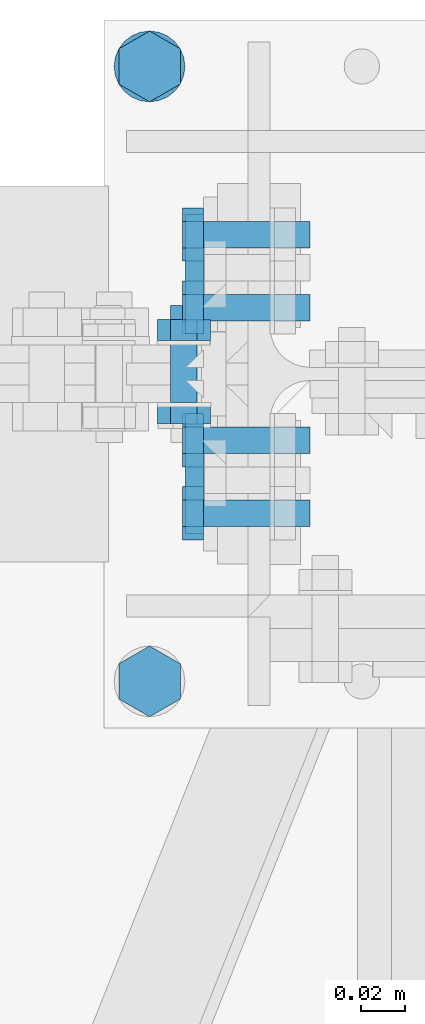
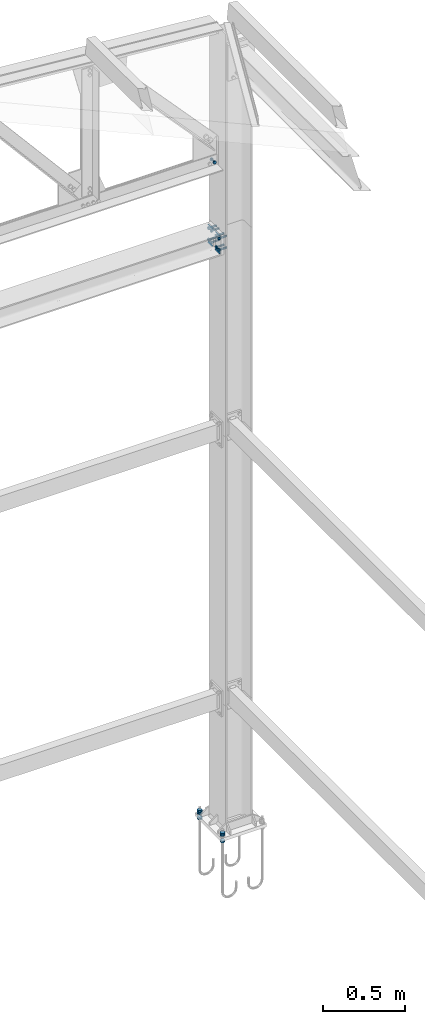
# One storey, part 223 of 251: 27 mechanical fasteners, 8 fasteners.
"""IFC4 building model written with IfcOpenShell, lengths in metres."""

import ifcopenshell
import ifcopenshell.guid

model = None  # the IFC model being written
_history = None  # IfcOwnerHistory: only IFC2X3 demands one
_inside = {}  # id of a spatial element -> (the spatial element, [elements in it])
_under = {}  # id of a project, library or spatial element -> (it, [spatial elements below it])
_declared = {}  # id of a project -> (the project, [libraries it declares])
_typed = {}  # id of a type object -> (the type object, [elements of that type])
_made_of = {}  # id of a material, layer set ... -> (it, [elements and type objects made of it])


def new_model(schema):
    """Start an empty IFC model of exactly this schema.

    Asked for "IFC4X3", IfcOpenShell would pick the latest addendum, in which some entities
    have other attributes; the version numbers below select the first issue.
    IFC2X3 requires an IfcOwnerHistory on every rooted entity: one is made here for all.
    """
    global model, _history
    if schema == "IFC4X3":
        model = ifcopenshell.file(schema_version=(4, 3, 0, 0))
    else:
        model = ifcopenshell.file(schema=schema)
    _inside.clear()
    _under.clear()
    _declared.clear()
    _typed.clear()
    _made_of.clear()
    _history = None
    if model.schema == "IFC2X3":
        org = make("IfcOrganization", Name="unknown")
        user = make(
            "IfcPersonAndOrganization",
            ThePerson=make("IfcPerson", FamilyName="unknown"),
            TheOrganization=org,
        )
        app = make(
            "IfcApplication",
            ApplicationDeveloper=org,
            Version="unknown",
            ApplicationFullName="unknown",
            ApplicationIdentifier="unknown",
        )
        _history = make(
            "IfcOwnerHistory",
            OwningUser=user,
            OwningApplication=app,
            ChangeAction="ADDED",
            CreationDate=0,
        )
    return model


def make(cls, **values):
    """One entity of the class cls with the attributes given. An attribute that is None is left unset."""
    return model.create_entity(
        cls, **{name: value for name, value in values.items() if value is not None}
    )


def rooted(cls, **values):
    """An entity with a GlobalId (a new one), such as an element, a storey or a relation."""
    return make(cls, GlobalId=ifcopenshell.guid.new(), OwnerHistory=_history, **values)


def si_unit(unit_type, name, prefix=None):
    """IfcSIUnit, for example si_unit("LENGTHUNIT", "METRE", prefix="MILLI")."""
    return make("IfcSIUnit", UnitType=unit_type, Prefix=prefix, Name=name)


def assignment(units):
    """IfcUnitAssignment: the units of a project."""
    return None if units is None else make("IfcUnitAssignment", Units=units)


def point(xyz):
    """IfcCartesianPoint."""
    return None if xyz is None else make("IfcCartesianPoint", Coordinates=xyz)


def direction(xyz):
    """IfcDirection."""
    return None if xyz is None else make("IfcDirection", DirectionRatios=xyz)


def frame(location, z_axis=None, x_axis=None):
    """IfcAxis2Placement3D, a coordinate frame: its origin and axes. An axis left out is left unset."""
    return make(
        "IfcAxis2Placement3D",
        Location=point(location),
        Axis=direction(z_axis),
        RefDirection=direction(x_axis),
    )


def origin_with_axes():
    """The frame at (0, 0, 0) with the z axis (0, 0, 1) and the x axis (1, 0, 0) written out."""
    return frame((0.0, 0.0, 0.0), z_axis=(0.0, 0.0, 1.0), x_axis=(1.0, 0.0, 0.0))


def place(relative_to, where):
    """IfcLocalPlacement: puts the frame where relative to a parent placement (None: the world)."""
    return make(
        "IfcLocalPlacement", PlacementRelTo=relative_to, RelativePlacement=where
    )


def context(
    kind, dimensions, precision=None, world=None, true_north=None, identifier=None
):
    """IfcGeometricRepresentationContext, for example the 3D "Model" context."""
    return make(
        "IfcGeometricRepresentationContext",
        ContextIdentifier=identifier,
        ContextType=kind,
        CoordinateSpaceDimension=dimensions,
        Precision=precision,
        WorldCoordinateSystem=world,
        TrueNorth=true_north,
    )


def project(units=None, contexts=None):
    """IfcProject with its units and contexts."""
    return rooted(
        "IfcProject",
        Name="project",
        RepresentationContexts=contexts,
        UnitsInContext=assignment(units),
    )


def spatial(cls, under=None, at=None, **own):
    """A site, building, storey or space (cls), placed at a placement, below another one or the project."""
    s = rooted(cls, ObjectPlacement=at, **own)
    if under is not None:
        _under.setdefault(under.id(), (under, []))[1].append(s)
    return s


def polyline(points):
    """IfcPolyline through the points."""
    return make("IfcPolyline", Points=[point(p) for p in points])


def outline(outer, holes=None, kind="AREA"):
    """IfcArbitraryClosedProfileDef: a profile drawn as a closed curve; with holes, ...WithVoids."""
    if holes is None:
        return make("IfcArbitraryClosedProfileDef", ProfileType=kind, OuterCurve=outer)
    return make(
        "IfcArbitraryProfileDefWithVoids",
        ProfileType=kind,
        OuterCurve=outer,
        InnerCurves=holes,
    )


def extrude(swept, where, along, depth):
    """IfcExtrudedAreaSolid: the profile swept, set in the frame where, extruded along a direction by depth."""
    return make(
        "IfcExtrudedAreaSolid",
        SweptArea=swept,
        Position=where,
        ExtrudedDirection=direction(along),
        Depth=depth,
    )


def shape(context_of_items, identifier, shape_type, items):
    """IfcShapeRepresentation: the items that make up one representation, for example the "Body"."""
    return make(
        "IfcShapeRepresentation",
        ContextOfItems=context_of_items,
        RepresentationIdentifier=identifier,
        RepresentationType=shape_type,
        Items=items,
    )


def made_of(thing, what):
    """Note that an element or type object is made of a material, layer set ...; save() writes the relation."""
    if what is not None:
        _made_of.setdefault(what.id(), (what, []))[1].append(thing)
    return thing


def type_object(cls, material=None, **own):
    """A type object (cls), such as IfcWallType, which elements share."""
    return made_of(rooted(cls, **own), material)


def element(
    cls,
    number,
    at=None,
    inside=None,
    cuts=None,
    type_object=None,
    material=None,
    context=None,
    identifier="Body",
    shape_type=None,
    held_by="IfcProductDefinitionShape",
    body=None,
    shapes=None,
    **own,
):
    """One element of the class cls, such as IfcWall. Its Tag is "e" and its number.

    at: its placement. inside: the storey or other place that contains it. cuts: it is an
    opening in that element (IfcRelVoidsElement). A single representation is given by context,
    identifier, shape_type and body (its items); several are given by shapes. held_by: the class
    of the entity that holds the representations. save() writes the other relations.
    """
    e = rooted(cls, Tag="e%d" % number, ObjectPlacement=at, **own)
    if body is not None:
        shapes = [shape(context, identifier, shape_type, body)]
    if shapes is not None:
        e.Representation = make(held_by, Representations=shapes)
    if inside is not None:
        _inside.setdefault(inside.id(), (inside, []))[1].append(e)
    if cuts is not None:
        rooted(
            "IfcRelVoidsElement", RelatingBuildingElement=cuts, RelatedOpeningElement=e
        )
    if type_object is not None:
        _typed.setdefault(type_object.id(), (type_object, []))[1].append(e)
    return made_of(e, material)


def aggregate(whole, parts):
    """IfcRelAggregates: a whole, such as a stair, and the parts it consists of."""
    return rooted("IfcRelAggregates", RelatingObject=whole, RelatedObjects=parts)


def save(model, path):
    """Write the relations noted so far, then the file.

    IfcRelAggregates (storeys below a building ...), IfcRelContainedInSpatialStructure (elements
    in a storey), IfcRelDefinesByType, IfcRelAssociatesMaterial and IfcRelDeclares: one each for
    every whole, place, type object, material and project.
    """
    for whole, parts in _under.values():
        aggregate(whole, parts)
    for where, things in _inside.values():
        rooted(
            "IfcRelContainedInSpatialStructure",
            RelatedElements=things,
            RelatingStructure=where,
        )
    for kind, things in _typed.values():
        rooted("IfcRelDefinesByType", RelatedObjects=things, RelatingType=kind)
    for what, things in _made_of.values():
        rooted("IfcRelAssociatesMaterial", RelatedObjects=things, RelatingMaterial=what)
    for by, libraries in _declared.values():
        rooted("IfcRelDeclares", RelatingContext=by, RelatedDefinitions=libraries)
    model.write(path)


model = new_model("IFC4")

# Units and contexts
model_context = context("Model", 3, precision=1e-05, world=origin_with_axes())
ifc_project = project(units=[si_unit("LENGTHUNIT", "METRE"), si_unit("AREAUNIT", "SQUARE_METRE"), si_unit("VOLUMEUNIT", "CUBIC_METRE"), si_unit("MASSUNIT", "GRAM", prefix="KILO"), si_unit("TIMEUNIT", "SECOND"), si_unit("PLANEANGLEUNIT", "RADIAN"), si_unit("SOLIDANGLEUNIT", "STERADIAN"), si_unit("THERMODYNAMICTEMPERATUREUNIT", "DEGREE_CELSIUS")], contexts=[model_context])

# Site, building, storey
placement_1 = place(None, origin_with_axes())
site = spatial("IfcSite", under=ifc_project, at=placement_1, Name="Italia", CompositionType="ELEMENT")
building = spatial("IfcBuilding", under=site, at=placement_1, Name="Deposito", CompositionType="ELEMENT")
storey = spatial("IfcBuildingStorey", under=building, at=placement_1, Name="Storey 0", CompositionType="ELEMENT", Elevation=0.0)

# Fasteners
fastener_type_1 = type_object("IfcFastenerType", Name="Collegamenti -051_7075 -053_7076", PredefinedType="WELD")
placement_2 = place(placement_1, origin_with_axes())
fastener_1_placement = place(placement_2, origin_with_axes())
element("IfcFastener", 1, at=fastener_1_placement, inside=storey, type_object=fastener_type_1, Name="Collegamenti -051_7075 -053_7076", context=model_context, shape_type="SweptSolid", body=[
    extrude(outline(polyline([(0.0, 0.0), (-0.00817299, 0.00792837), (0.0, 0.00792837), (0.0, 0.0)])), frame((19.885, 19.982, 4.48312), z_axis=(0.0, -1.0, 0.0), x_axis=(1.0, 0.0, 0.0)), (0.0, 0.0, 1.0), 0.0541),
])
fastener_type_2 = type_object("IfcFastenerType", Name="Collegamenti -051_7075 -053_7076", PredefinedType="WELD")
fastener_2_placement = place(placement_2, origin_with_axes())
element("IfcFastener", 2, at=fastener_2_placement, inside=storey, type_object=fastener_type_2, Name="Collegamenti -051_7075 -053_7076", context=model_context, shape_type="SweptSolid", body=[
    extrude(outline(polyline([(0.0, 0.0), (0.00817299, -0.00792837), (0.0, -0.00792837), (0.0, 0.0)])), frame((19.885, 19.9279, 4.36488), z_axis=(0.0, 1.0, 0.0), x_axis=(-1.0, 0.0, 0.0)), (0.0, 0.0, 1.0), 0.0541),
])
fastener_type_3 = type_object("IfcFastenerType", Name="Collegamenti -051_7075 -053_7076", PredefinedType="WELD")
fastener_3_placement = place(placement_2, origin_with_axes())
element("IfcFastener", 3, at=fastener_3_placement, inside=storey, type_object=fastener_type_3, Name="Collegamenti -051_7075 -053_7076", context=model_context, shape_type="SweptSolid", body=[
    extrude(outline(polyline([(0.0, 0.0), (0.00817299, -0.00792837), (0.0, -0.00792837), (0.0, 0.0)])), frame((19.885, 20.018, 4.36488), z_axis=(0.0, 1.0, 0.0), x_axis=(-1.0, 0.0, 0.0)), (0.0, 0.0, 1.0), 0.0541),
])
fastener_type_4 = type_object("IfcFastenerType", Name="Collegamenti -051_7075 -053_7076", PredefinedType="WELD")
fastener_4_placement = place(placement_2, origin_with_axes())
element("IfcFastener", 4, at=fastener_4_placement, inside=storey, type_object=fastener_type_4, Name="Collegamenti -051_7075 -053_7076", context=model_context, shape_type="SweptSolid", body=[
    extrude(outline(polyline([(0.0, 0.0), (-0.00817299, 0.00792837), (0.0, 0.00792837), (0.0, 0.0)])), frame((19.885, 20.0721, 4.48312), z_axis=(0.0, -1.0, 0.0), x_axis=(1.0, 0.0, 0.0)), (0.0, 0.0, 1.0), 0.0541),
])
fastener_type_5 = type_object("IfcFastenerType", Name="Collegamenti -051_7075 -053_7076", PredefinedType="WELD")
fastener_5_placement = place(placement_2, origin_with_axes())
element("IfcFastener", 5, at=fastener_5_placement, inside=storey, type_object=fastener_type_5, Name="Collegamenti -051_7075 -053_7076", context=model_context, shape_type="SweptSolid", body=[
    extrude(outline(polyline([(0.0, 0.0), (-0.00817299, 0.00792837), (0.0, 0.00792837), (0.0, 0.0)])), frame((19.885, 19.982, 4.48312), z_axis=(0.0, -1.0, 0.0), x_axis=(1.0, 0.0, 0.0)), (0.0, 0.0, 1.0), 0.0541),
])
fastener_type_6 = type_object("IfcFastenerType", Name="Collegamenti -051_7075 -053_7076", PredefinedType="WELD")
fastener_6_placement = place(placement_2, origin_with_axes())
element("IfcFastener", 6, at=fastener_6_placement, inside=storey, type_object=fastener_type_6, Name="Collegamenti -051_7075 -053_7076", context=model_context, shape_type="SweptSolid", body=[
    extrude(outline(polyline([(0.0, 0.0), (0.00817299, -0.00792837), (0.0, -0.00792837), (0.0, 0.0)])), frame((19.885, 19.9279, 4.36488), z_axis=(0.0, 1.0, 0.0), x_axis=(-1.0, 0.0, 0.0)), (0.0, 0.0, 1.0), 0.0541),
])
fastener_type_7 = type_object("IfcFastenerType", Name="Collegamenti -051_7075 -053_7076", PredefinedType="WELD")
fastener_7_placement = place(placement_2, origin_with_axes())
element("IfcFastener", 7, at=fastener_7_placement, inside=storey, type_object=fastener_type_7, Name="Collegamenti -051_7075 -053_7076", context=model_context, shape_type="SweptSolid", body=[
    extrude(outline(polyline([(0.0, 0.0), (0.00817299, -0.00792837), (0.0, -0.00792837), (0.0, 0.0)])), frame((19.885, 20.018, 4.36488), z_axis=(0.0, 1.0, 0.0), x_axis=(-1.0, 0.0, 0.0)), (0.0, 0.0, 1.0), 0.0541),
])
fastener_type_8 = type_object("IfcFastenerType", Name="Collegamenti -051_7075 -053_7076", PredefinedType="WELD")
fastener_8_placement = place(placement_2, origin_with_axes())
element("IfcFastener", 8, at=fastener_8_placement, inside=storey, type_object=fastener_type_8, Name="Collegamenti -051_7075 -053_7076", context=model_context, shape_type="SweptSolid", body=[
    extrude(outline(polyline([(0.0, 0.0), (-0.00817299, 0.00792837), (0.0, 0.00792837), (0.0, 0.0)])), frame((19.885, 20.0721, 4.48312), z_axis=(0.0, -1.0, 0.0), x_axis=(1.0, 0.0, 0.0)), (0.0, 0.0, 1.0), 0.0541),
])

# Mechanical fasteners
mechanical_fastener_type_1 = type_object("IfcMechanicalFastenerType", Name="Collegamenti -051_7075 -053_7076", PredefinedType="BOLT")
mechanical_fastener_1_placement = place(placement_2, origin_with_axes())
element("IfcMechanicalFastener", 9, at=mechanical_fastener_1_placement, inside=storey, type_object=mechanical_fastener_type_1, Name="Collegamenti -051_7075 -053_7076", NominalDiameter=0.0119992, context=model_context, shape_type="SweptSolid", body=[
    extrude(outline(polyline([(0.0, 0.0), (-0.012001, 0.0), (-0.0180016, 0.0103922), (-0.012001, 0.0207849), (0.0, 0.0207849), (0.00599861, 0.0103922), (0.0, 0.0)])), frame((19.885, 20.057, 4.37061), z_axis=(-1.0, 0.0, 0.0), x_axis=(0.0, -1.0, 0.0)), (0.0, 0.0, 1.0), 0.00959969),
])
mechanical_fastener_type_2 = type_object("IfcMechanicalFastenerType", Name="Collegamenti -051_7075 -053_7076", PredefinedType="BOLT")
mechanical_fastener_2_placement = place(placement_2, origin_with_axes())
element("IfcMechanicalFastener", 10, at=mechanical_fastener_2_placement, inside=storey, type_object=mechanical_fastener_type_2, Name="Collegamenti -051_7075 -053_7076", NominalDiameter=0.012, context=model_context, shape_type="SweptSolid", body=[
    extrude(outline(polyline([(0.0, 0.0), (-0.000204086, -0.00155306), (-0.000804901, -0.00299978), (-0.00175858, -0.00424242), (-0.00300026, -0.00519609), (-0.00444794, -0.00579548), (-0.00600052, -0.00600004), (-0.0075531, -0.00579548), (-0.00900078, -0.00519609), (-0.0102425, -0.00424242), (-0.0111961, -0.00299978), (-0.011797, -0.00155306), (-0.012001, 0.0), (-0.011797, 0.00155306), (-0.0111961, 0.00299978), (-0.0102425, 0.00424242), (-0.00900078, 0.00519609), (-0.0075531, 0.00579548), (-0.00600052, 0.00600004), (-0.00444794, 0.00579548), (-0.00300026, 0.00519609), (-0.00175858, 0.00424242), (-0.000804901, 0.00299978), (-0.000204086, 0.00155306), (0.0, 0.0)])), frame((19.933, 20.057, 4.381), z_axis=(-1.0, 0.0, 0.0), x_axis=(0.0, -1.0, 0.0)), (0.0, 0.0, 1.0), 0.0480003),
])
mechanical_fastener_type_3 = type_object("IfcMechanicalFastenerType", Name="Collegamenti -051_7075 -053_7076", PredefinedType="BOLT")
mechanical_fastener_3_placement = place(placement_2, origin_with_axes())
element("IfcMechanicalFastener", 11, at=mechanical_fastener_3_placement, inside=storey, type_object=mechanical_fastener_type_3, Name="Collegamenti -051_7075 -053_7076", NominalDiameter=0.0119991, context=model_context, shape_type="SweptSolid", body=[
    extrude(outline(polyline([(0.0, 0.0), (-0.0119991, 0.0), (-0.0179996, 0.0103922), (-0.0119991, 0.0207849), (0.0, 0.0207849), (0.00600052, 0.0103922), (0.0, 0.0)])), frame((19.885, 20.024, 4.37061), z_axis=(-1.0, 0.0, 0.0), x_axis=(0.0, -1.0, 0.0)), (0.0, 0.0, 1.0), 0.00959969),
])
mechanical_fastener_type_4 = type_object("IfcMechanicalFastenerType", Name="Collegamenti -051_7075 -053_7076", PredefinedType="BOLT")
mechanical_fastener_4_placement = place(placement_2, origin_with_axes())
element("IfcMechanicalFastener", 12, at=mechanical_fastener_4_placement, inside=storey, type_object=mechanical_fastener_type_4, Name="Collegamenti -051_7075 -053_7076", NominalDiameter=0.012, context=model_context, shape_type="SweptSolid", body=[
    extrude(outline(polyline([(0.0, 0.0), (-0.000204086, -0.00155306), (-0.000804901, -0.00299978), (-0.00175858, -0.00424242), (-0.00300026, -0.00519609), (-0.00444794, -0.00579548), (-0.00600052, -0.00600004), (-0.0075531, -0.00579548), (-0.00900078, -0.00519609), (-0.0102425, -0.00424242), (-0.0111961, -0.00299978), (-0.011797, -0.00155306), (-0.012001, 0.0), (-0.011797, 0.00155306), (-0.0111961, 0.00299978), (-0.0102425, 0.00424242), (-0.00900078, 0.00519609), (-0.0075531, 0.00579548), (-0.00600052, 0.00600004), (-0.00444794, 0.00579548), (-0.00300026, 0.00519609), (-0.00175858, 0.00424242), (-0.000804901, 0.00299978), (-0.000204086, 0.00155306), (0.0, 0.0)])), frame((19.933, 20.024, 4.381), z_axis=(-1.0, 0.0, 0.0), x_axis=(0.0, -1.0, 0.0)), (0.0, 0.0, 1.0), 0.0480003),
])
mechanical_fastener_type_5 = type_object("IfcMechanicalFastenerType", Name="Collegamenti -051_7075 -053_7076", PredefinedType="BOLT")
mechanical_fastener_5_placement = place(placement_2, origin_with_axes())
element("IfcMechanicalFastener", 13, at=mechanical_fastener_5_placement, inside=storey, type_object=mechanical_fastener_type_5, Name="Collegamenti -051_7075 -053_7076", NominalDiameter=0.0119991, context=model_context, shape_type="SweptSolid", body=[
    extrude(outline(polyline([(0.0, 0.0), (-0.0119991, 0.0), (-0.0179996, 0.0103922), (-0.0119991, 0.0207849), (0.0, 0.0207849), (0.00600052, 0.0103922), (0.0, 0.0)])), frame((19.885, 19.964, 4.37061), z_axis=(-1.0, 0.0, 0.0), x_axis=(0.0, -1.0, 0.0)), (0.0, 0.0, 1.0), 0.00959969),
])
mechanical_fastener_type_6 = type_object("IfcMechanicalFastenerType", Name="Collegamenti -051_7075 -053_7076", PredefinedType="BOLT")
mechanical_fastener_6_placement = place(placement_2, origin_with_axes())
element("IfcMechanicalFastener", 14, at=mechanical_fastener_6_placement, inside=storey, type_object=mechanical_fastener_type_6, Name="Collegamenti -051_7075 -053_7076", NominalDiameter=0.012, context=model_context, shape_type="SweptSolid", body=[
    extrude(outline(polyline([(0.0, 0.0), (-0.000204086, -0.00155306), (-0.000804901, -0.00299978), (-0.00175858, -0.00424242), (-0.00300026, -0.00519609), (-0.00444794, -0.00579548), (-0.00600052, -0.00600004), (-0.0075531, -0.00579548), (-0.00900078, -0.00519609), (-0.0102425, -0.00424242), (-0.0111961, -0.00299978), (-0.011797, -0.00155306), (-0.012001, 0.0), (-0.011797, 0.00155306), (-0.0111961, 0.00299978), (-0.0102425, 0.00424242), (-0.00900078, 0.00519609), (-0.0075531, 0.00579548), (-0.00600052, 0.00600004), (-0.00444794, 0.00579548), (-0.00300026, 0.00519609), (-0.00175858, 0.00424242), (-0.000804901, 0.00299978), (-0.000204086, 0.00155306), (0.0, 0.0)])), frame((19.933, 19.964, 4.381), z_axis=(-1.0, 0.0, 0.0), x_axis=(0.0, -1.0, 0.0)), (0.0, 0.0, 1.0), 0.0480003),
])
mechanical_fastener_type_7 = type_object("IfcMechanicalFastenerType", Name="Collegamenti -051_7075 -053_7076", PredefinedType="BOLT")
mechanical_fastener_7_placement = place(placement_2, origin_with_axes())
element("IfcMechanicalFastener", 15, at=mechanical_fastener_7_placement, inside=storey, type_object=mechanical_fastener_type_7, Name="Collegamenti -051_7075 -053_7076", NominalDiameter=0.0119992, context=model_context, shape_type="SweptSolid", body=[
    extrude(outline(polyline([(0.0, 0.0), (-0.012001, 0.0), (-0.0179996, 0.0103922), (-0.012001, 0.0207849), (0.0, 0.0207849), (0.00600052, 0.0103922), (0.0, 0.0)])), frame((19.885, 19.931, 4.37061), z_axis=(-1.0, 0.0, 0.0), x_axis=(0.0, -1.0, 0.0)), (0.0, 0.0, 1.0), 0.00959969),
])
mechanical_fastener_type_8 = type_object("IfcMechanicalFastenerType", Name="Collegamenti -051_7075 -053_7076", PredefinedType="BOLT")
mechanical_fastener_8_placement = place(placement_2, origin_with_axes())
element("IfcMechanicalFastener", 16, at=mechanical_fastener_8_placement, inside=storey, type_object=mechanical_fastener_type_8, Name="Collegamenti -051_7075 -053_7076", NominalDiameter=0.012, context=model_context, shape_type="SweptSolid", body=[
    extrude(outline(polyline([(0.0, 0.0), (-0.000204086, -0.00155306), (-0.000804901, -0.00299978), (-0.00175858, -0.00424242), (-0.00300026, -0.00519609), (-0.00444794, -0.00579548), (-0.00600052, -0.00600004), (-0.0075531, -0.00579548), (-0.00900078, -0.00519609), (-0.0102425, -0.00424242), (-0.0111961, -0.00299978), (-0.011797, -0.00155306), (-0.012001, 0.0), (-0.011797, 0.00155306), (-0.0111961, 0.00299978), (-0.0102425, 0.00424242), (-0.00900078, 0.00519609), (-0.0075531, 0.00579548), (-0.00600052, 0.00600004), (-0.00444794, 0.00579548), (-0.00300026, 0.00519609), (-0.00175858, 0.00424242), (-0.000804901, 0.00299978), (-0.000204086, 0.00155306), (0.0, 0.0)])), frame((19.933, 19.931, 4.381), z_axis=(-1.0, 0.0, 0.0), x_axis=(0.0, -1.0, 0.0)), (0.0, 0.0, 1.0), 0.0480003),
])
mechanical_fastener_type_9 = type_object("IfcMechanicalFastenerType", Name="Collegamenti -051_7075 -053_7076", PredefinedType="BOLT")
mechanical_fastener_9_placement = place(placement_2, origin_with_axes())
element("IfcMechanicalFastener", 17, at=mechanical_fastener_9_placement, inside=storey, type_object=mechanical_fastener_type_9, Name="Collegamenti -051_7075 -053_7076", NominalDiameter=0.0119992, context=model_context, shape_type="SweptSolid", body=[
    extrude(outline(polyline([(0.0, 0.0), (-0.012001, 0.0), (-0.0180016, 0.0103927), (-0.012001, 0.0207849), (0.0, 0.0207849), (0.00599861, 0.0103927), (0.0, 0.0)])), frame((19.885, 20.057, 4.45661), z_axis=(-1.0, 0.0, 0.0), x_axis=(0.0, -1.0, 0.0)), (0.0, 0.0, 1.0), 0.00959969),
])
mechanical_fastener_type_10 = type_object("IfcMechanicalFastenerType", Name="Collegamenti -051_7075 -053_7076", PredefinedType="BOLT")
mechanical_fastener_10_placement = place(placement_2, origin_with_axes())
element("IfcMechanicalFastener", 18, at=mechanical_fastener_10_placement, inside=storey, type_object=mechanical_fastener_type_10, Name="Collegamenti -051_7075 -053_7076", NominalDiameter=0.012, context=model_context, shape_type="SweptSolid", body=[
    extrude(outline(polyline([(0.0, 0.0), (-0.000204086, -0.00155306), (-0.000804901, -0.00299978), (-0.00175858, -0.00424242), (-0.00300026, -0.00519609), (-0.00444794, -0.00579548), (-0.00600052, -0.00600004), (-0.0075531, -0.00579548), (-0.00900078, -0.00519609), (-0.0102425, -0.00424242), (-0.0111961, -0.00299978), (-0.011797, -0.00155306), (-0.012001, 0.0), (-0.011797, 0.00155306), (-0.0111961, 0.00299978), (-0.0102425, 0.00424242), (-0.00900078, 0.00519609), (-0.0075531, 0.00579548), (-0.00600052, 0.00600004), (-0.00444794, 0.00579548), (-0.00300026, 0.00519609), (-0.00175858, 0.00424242), (-0.000804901, 0.00299978), (-0.000204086, 0.00155306), (0.0, 0.0)])), frame((19.933, 20.057, 4.467), z_axis=(-1.0, 0.0, 0.0), x_axis=(0.0, -1.0, 0.0)), (0.0, 0.0, 1.0), 0.0480003),
])
mechanical_fastener_type_11 = type_object("IfcMechanicalFastenerType", Name="Collegamenti -051_7075 -053_7076", PredefinedType="BOLT")
mechanical_fastener_11_placement = place(placement_2, origin_with_axes())
element("IfcMechanicalFastener", 19, at=mechanical_fastener_11_placement, inside=storey, type_object=mechanical_fastener_type_11, Name="Collegamenti -051_7075 -053_7076", NominalDiameter=0.0119991, context=model_context, shape_type="SweptSolid", body=[
    extrude(outline(polyline([(0.0, 0.0), (-0.0119991, 0.0), (-0.0179996, 0.0103927), (-0.0119991, 0.0207849), (0.0, 0.0207849), (0.00600052, 0.0103927), (0.0, 0.0)])), frame((19.885, 20.024, 4.45661), z_axis=(-1.0, 0.0, 0.0), x_axis=(0.0, -1.0, 0.0)), (0.0, 0.0, 1.0), 0.00959969),
])
mechanical_fastener_type_12 = type_object("IfcMechanicalFastenerType", Name="Collegamenti -051_7075 -053_7076", PredefinedType="BOLT")
mechanical_fastener_12_placement = place(placement_2, origin_with_axes())
element("IfcMechanicalFastener", 20, at=mechanical_fastener_12_placement, inside=storey, type_object=mechanical_fastener_type_12, Name="Collegamenti -051_7075 -053_7076", NominalDiameter=0.012, context=model_context, shape_type="SweptSolid", body=[
    extrude(outline(polyline([(0.0, 0.0), (-0.000204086, -0.00155306), (-0.000804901, -0.00299978), (-0.00175858, -0.00424242), (-0.00300026, -0.00519609), (-0.00444794, -0.00579548), (-0.00600052, -0.00600004), (-0.0075531, -0.00579548), (-0.00900078, -0.00519609), (-0.0102425, -0.00424242), (-0.0111961, -0.00299978), (-0.011797, -0.00155306), (-0.012001, 0.0), (-0.011797, 0.00155306), (-0.0111961, 0.00299978), (-0.0102425, 0.00424242), (-0.00900078, 0.00519609), (-0.0075531, 0.00579548), (-0.00600052, 0.00600004), (-0.00444794, 0.00579548), (-0.00300026, 0.00519609), (-0.00175858, 0.00424242), (-0.000804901, 0.00299978), (-0.000204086, 0.00155306), (0.0, 0.0)])), frame((19.933, 20.024, 4.467), z_axis=(-1.0, 0.0, 0.0), x_axis=(0.0, -1.0, 0.0)), (0.0, 0.0, 1.0), 0.0480003),
])
mechanical_fastener_type_13 = type_object("IfcMechanicalFastenerType", Name="Collegamenti -051_7075 -053_7076", PredefinedType="BOLT")
mechanical_fastener_13_placement = place(placement_2, origin_with_axes())
element("IfcMechanicalFastener", 21, at=mechanical_fastener_13_placement, inside=storey, type_object=mechanical_fastener_type_13, Name="Collegamenti -051_7075 -053_7076", NominalDiameter=0.0119991, context=model_context, shape_type="SweptSolid", body=[
    extrude(outline(polyline([(0.0, 0.0), (-0.0119991, 0.0), (-0.0179996, 0.0103927), (-0.0119991, 0.0207849), (0.0, 0.0207849), (0.00600052, 0.0103927), (0.0, 0.0)])), frame((19.885, 19.964, 4.45661), z_axis=(-1.0, 0.0, 0.0), x_axis=(0.0, -1.0, 0.0)), (0.0, 0.0, 1.0), 0.00959969),
])
mechanical_fastener_type_14 = type_object("IfcMechanicalFastenerType", Name="Collegamenti -051_7075 -053_7076", PredefinedType="BOLT")
mechanical_fastener_14_placement = place(placement_2, origin_with_axes())
element("IfcMechanicalFastener", 22, at=mechanical_fastener_14_placement, inside=storey, type_object=mechanical_fastener_type_14, Name="Collegamenti -051_7075 -053_7076", NominalDiameter=0.012, context=model_context, shape_type="SweptSolid", body=[
    extrude(outline(polyline([(0.0, 0.0), (-0.000204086, -0.00155306), (-0.000804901, -0.00299978), (-0.00175858, -0.00424242), (-0.00300026, -0.00519609), (-0.00444794, -0.00579548), (-0.00600052, -0.00600004), (-0.0075531, -0.00579548), (-0.00900078, -0.00519609), (-0.0102425, -0.00424242), (-0.0111961, -0.00299978), (-0.011797, -0.00155306), (-0.012001, 0.0), (-0.011797, 0.00155306), (-0.0111961, 0.00299978), (-0.0102425, 0.00424242), (-0.00900078, 0.00519609), (-0.0075531, 0.00579548), (-0.00600052, 0.00600004), (-0.00444794, 0.00579548), (-0.00300026, 0.00519609), (-0.00175858, 0.00424242), (-0.000804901, 0.00299978), (-0.000204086, 0.00155306), (0.0, 0.0)])), frame((19.933, 19.964, 4.467), z_axis=(-1.0, 0.0, 0.0), x_axis=(0.0, -1.0, 0.0)), (0.0, 0.0, 1.0), 0.0480003),
])
mechanical_fastener_type_15 = type_object("IfcMechanicalFastenerType", Name="Collegamenti -051_7075 -053_7076", PredefinedType="BOLT")
mechanical_fastener_15_placement = place(placement_2, origin_with_axes())
element("IfcMechanicalFastener", 23, at=mechanical_fastener_15_placement, inside=storey, type_object=mechanical_fastener_type_15, Name="Collegamenti -051_7075 -053_7076", NominalDiameter=0.0119992, context=model_context, shape_type="SweptSolid", body=[
    extrude(outline(polyline([(0.0, 0.0), (-0.012001, 0.0), (-0.0179996, 0.0103927), (-0.012001, 0.0207849), (0.0, 0.0207849), (0.00600052, 0.0103927), (0.0, 0.0)])), frame((19.885, 19.931, 4.45661), z_axis=(-1.0, 0.0, 0.0), x_axis=(0.0, -1.0, 0.0)), (0.0, 0.0, 1.0), 0.00959969),
])
mechanical_fastener_type_16 = type_object("IfcMechanicalFastenerType", Name="Collegamenti -051_7075 -053_7076", PredefinedType="BOLT")
mechanical_fastener_16_placement = place(placement_2, origin_with_axes())
element("IfcMechanicalFastener", 24, at=mechanical_fastener_16_placement, inside=storey, type_object=mechanical_fastener_type_16, Name="Collegamenti -051_7075 -053_7076", NominalDiameter=0.012, context=model_context, shape_type="SweptSolid", body=[
    extrude(outline(polyline([(0.0, 0.0), (-0.000204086, -0.00155306), (-0.000804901, -0.00299978), (-0.00175858, -0.00424242), (-0.00300026, -0.00519609), (-0.00444794, -0.00579548), (-0.00600052, -0.00600004), (-0.0075531, -0.00579548), (-0.00900078, -0.00519609), (-0.0102425, -0.00424242), (-0.0111961, -0.00299978), (-0.011797, -0.00155306), (-0.012001, 0.0), (-0.011797, 0.00155306), (-0.0111961, 0.00299978), (-0.0102425, 0.00424242), (-0.00900078, 0.00519609), (-0.0075531, 0.00579548), (-0.00600052, 0.00600004), (-0.00444794, 0.00579548), (-0.00300026, 0.00519609), (-0.00175858, 0.00424242), (-0.000804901, 0.00299978), (-0.000204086, 0.00155306), (0.0, 0.0)])), frame((19.933, 19.931, 4.467), z_axis=(-1.0, 0.0, 0.0), x_axis=(0.0, -1.0, 0.0)), (0.0, 0.0, 1.0), 0.0480003),
])
mechanical_fastener_type_17 = type_object("IfcMechanicalFastenerType", Name="Collegamenti 0014_-001 0016_-054 0018_-056 0032_-002 0033_-058 0047_-003 0048_-060 0062_-004 0063_-005 0079_-008", PredefinedType="BOLT")
mechanical_fastener_17_placement = place(placement_2, origin_with_axes())
element("IfcMechanicalFastener", 25, at=mechanical_fastener_17_placement, inside=storey, type_object=mechanical_fastener_type_17, Name="Collegamenti 0014_-001 0016_-054 0018_-056 0032_-002 0033_-058 0047_-003 0048_-060 0062_-004 0063_-005 0079_-008", NominalDiameter=0.0159988, context=model_context, shape_type="SweptSolid", body=[
    extrude(outline(polyline([(0.0, 0.0), (-0.0159988, 0.0), (-0.0240002, 0.0138569), (-0.0159988, 0.0277138), (0.0, 0.0277138), (0.00800133, 0.0138569), (0.0, 0.0)])), frame((19.8744, 19.869, 0.079), z_axis=(0.0, 0.0, 1.0), x_axis=(0.0, 1.0, 0.0)), (0.0, 0.0, 1.0), 0.0128),
])
mechanical_fastener_type_18 = type_object("IfcMechanicalFastenerType", Name="Collegamenti 0014_-001 0016_-054 0018_-056 0032_-002 0033_-058 0047_-003 0048_-060 0062_-004 0063_-005 0079_-008", PredefinedType="BOLT")
mechanical_fastener_18_placement = place(placement_2, origin_with_axes())
element("IfcMechanicalFastener", 26, at=mechanical_fastener_18_placement, inside=storey, type_object=mechanical_fastener_type_18, Name="Collegamenti 0014_-001 0016_-054 0018_-056 0032_-002 0033_-058 0047_-003 0048_-060 0062_-004 0063_-005 0079_-008", NominalDiameter=0.0159988, context=model_context, shape_type="SweptSolid", body=[
    extrude(outline(polyline([(0.0, 0.0), (-0.0159988, 0.0), (-0.0240002, 0.0138569), (-0.0159988, 0.0277138), (0.0, 0.0277138), (0.00800133, 0.0138569), (0.0, 0.0)])), frame((19.8744, 19.869, 0.0918), z_axis=(0.0, 0.0, 1.0), x_axis=(0.0, 1.0, 0.0)), (0.0, 0.0, 1.0), 0.0128),
])
mechanical_fastener_type_19 = type_object("IfcMechanicalFastenerType", Name="Collegamenti 0014_-001 0016_-054 0018_-056 0032_-002 0033_-058 0047_-003 0048_-060 0062_-004 0063_-005 0079_-008", PredefinedType="BOLT")
mechanical_fastener_19_placement = place(placement_2, origin_with_axes())
element("IfcMechanicalFastener", 27, at=mechanical_fastener_19_placement, inside=storey, type_object=mechanical_fastener_type_19, Name="Collegamenti 0014_-001 0016_-054 0018_-056 0032_-002 0033_-058 0047_-003 0048_-060 0062_-004 0063_-005 0079_-008", NominalDiameter=0.0159988, context=model_context, shape_type="SweptSolid", body=[
    extrude(outline(polyline([(0.0, 0.0), (-0.0159988, 0.0), (-0.0240002, 0.0138569), (-0.0159988, 0.0277138), (0.0, 0.0277138), (0.00800133, 0.0138569), (0.0, 0.0)])), frame((19.8744, 19.869, 0.0332), z_axis=(0.0, 0.0, 1.0), x_axis=(0.0, 1.0, 0.0)), (0.0, 0.0, 1.0), 0.0128),
])
mechanical_fastener_type_20 = type_object("IfcMechanicalFastenerType", Name="Collegamenti 0014_-001 0016_-054 0018_-056 0032_-002 0033_-058 0047_-003 0048_-060 0062_-004 0063_-005 0079_-008", PredefinedType="BOLT")
mechanical_fastener_20_placement = place(placement_2, origin_with_axes())
element("IfcMechanicalFastener", 28, at=mechanical_fastener_20_placement, inside=storey, type_object=mechanical_fastener_type_20, Name="Collegamenti 0014_-001 0016_-054 0018_-056 0032_-002 0033_-058 0047_-003 0048_-060 0062_-004 0063_-005 0079_-008", NominalDiameter=0.0159988, context=model_context, shape_type="SweptSolid", body=[
    extrude(outline(polyline([(0.0, 0.0), (-0.0159988, 0.0), (-0.0240002, 0.0138569), (-0.0159988, 0.0277138), (0.0, 0.0277138), (0.00800133, 0.0138569), (0.0, 0.0)])), frame((19.8744, 20.147, 0.079), z_axis=(0.0, 0.0, 1.0), x_axis=(0.0, 1.0, 0.0)), (0.0, 0.0, 1.0), 0.0128),
])
mechanical_fastener_type_21 = type_object("IfcMechanicalFastenerType", Name="Collegamenti 0014_-001 0016_-054 0018_-056 0032_-002 0033_-058 0047_-003 0048_-060 0062_-004 0063_-005 0079_-008", PredefinedType="BOLT")
mechanical_fastener_21_placement = place(placement_2, origin_with_axes())
element("IfcMechanicalFastener", 29, at=mechanical_fastener_21_placement, inside=storey, type_object=mechanical_fastener_type_21, Name="Collegamenti 0014_-001 0016_-054 0018_-056 0032_-002 0033_-058 0047_-003 0048_-060 0062_-004 0063_-005 0079_-008", NominalDiameter=0.0159988, context=model_context, shape_type="SweptSolid", body=[
    extrude(outline(polyline([(0.0, 0.0), (-0.0159988, 0.0), (-0.0240002, 0.0138569), (-0.0159988, 0.0277138), (0.0, 0.0277138), (0.00800133, 0.0138569), (0.0, 0.0)])), frame((19.8744, 20.147, 0.0918), z_axis=(0.0, 0.0, 1.0), x_axis=(0.0, 1.0, 0.0)), (0.0, 0.0, 1.0), 0.0128),
])
mechanical_fastener_type_22 = type_object("IfcMechanicalFastenerType", Name="Collegamenti 0014_-001 0016_-054 0018_-056 0032_-002 0033_-058 0047_-003 0048_-060 0062_-004 0063_-005 0079_-008", PredefinedType="BOLT")
mechanical_fastener_22_placement = place(placement_2, origin_with_axes())
element("IfcMechanicalFastener", 30, at=mechanical_fastener_22_placement, inside=storey, type_object=mechanical_fastener_type_22, Name="Collegamenti 0014_-001 0016_-054 0018_-056 0032_-002 0033_-058 0047_-003 0048_-060 0062_-004 0063_-005 0079_-008", NominalDiameter=0.0159988, context=model_context, shape_type="SweptSolid", body=[
    extrude(outline(polyline([(0.0, 0.0), (-0.0159988, 0.0), (-0.0240002, 0.0138569), (-0.0159988, 0.0277138), (0.0, 0.0277138), (0.00800133, 0.0138569), (0.0, 0.0)])), frame((19.8744, 20.147, 0.0332), z_axis=(0.0, 0.0, 1.0), x_axis=(0.0, 1.0, 0.0)), (0.0, 0.0, 1.0), 0.0128),
])
mechanical_fastener_type_23 = type_object("IfcMechanicalFastenerType", Name="Collegamenti 0014_-001 0016_-054 0018_-056 0032_-002 0033_-058 0047_-003 0048_-060 0062_-004 0063_-005 0079_-008", PredefinedType="BOLT")
mechanical_fastener_23_placement = place(placement_2, origin_with_axes())
element("IfcMechanicalFastener", 31, at=mechanical_fastener_23_placement, inside=storey, type_object=mechanical_fastener_type_23, Name="Collegamenti 0014_-001 0016_-054 0018_-056 0032_-002 0033_-058 0047_-003 0048_-060 0062_-004 0063_-005 0079_-008", NominalDiameter=0.032, context=model_context, shape_type="SweptSolid", body=[
    extrude(outline(polyline([(0.0, 0.0), (-0.000545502, -0.00414085), (-0.00214386, -0.00799942), (-0.00468636, -0.0113144), (-0.00800133, -0.0138569), (-0.0118599, -0.0154552), (-0.0160007, -0.0160007), (-0.0201416, -0.0154552), (-0.0240002, -0.0138569), (-0.0273151, -0.0113144), (-0.0298576, -0.00799942), (-0.031456, -0.00414085), (-0.0320015, 0.0), (-0.031456, 0.00414085), (-0.0298576, 0.00799942), (-0.0273151, 0.0113144), (-0.0240002, 0.0138569), (-0.0201416, 0.0154552), (-0.0160007, 0.0160007), (-0.0118599, 0.0154552), (-0.00800133, 0.0138569), (-0.00468636, 0.0113144), (-0.00214386, 0.00799942), (-0.000545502, 0.00414085), (0.0, 0.0)])), frame((19.8605, 20.155, 0.075), z_axis=(0.0, 0.0, 1.0), x_axis=(0.0, 1.0, 0.0)), (0.0, 0.0, 1.0), 0.00399999),
])
mechanical_fastener_type_24 = type_object("IfcMechanicalFastenerType", Name="Collegamenti 0014_-001 0016_-054 0018_-056 0032_-002 0033_-058 0047_-003 0048_-060 0062_-004 0063_-005 0079_-008", PredefinedType="BOLT")
mechanical_fastener_24_placement = place(placement_2, origin_with_axes())
element("IfcMechanicalFastener", 32, at=mechanical_fastener_24_placement, inside=storey, type_object=mechanical_fastener_type_24, Name="Collegamenti 0014_-001 0016_-054 0018_-056 0032_-002 0033_-058 0047_-003 0048_-060 0062_-004 0063_-005 0079_-008", NominalDiameter=0.032, context=model_context, shape_type="SweptSolid", body=[
    extrude(outline(polyline([(0.0, 0.0), (-0.000545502, -0.00414085), (-0.00214386, -0.00799942), (-0.00468636, -0.0113144), (-0.00800133, -0.0138569), (-0.0118599, -0.0154552), (-0.0160007, -0.0160007), (-0.0201416, -0.0154552), (-0.0240002, -0.0138569), (-0.0273151, -0.0113144), (-0.0298576, -0.00799942), (-0.031456, -0.00414085), (-0.0320015, 0.0), (-0.031456, 0.00414085), (-0.0298576, 0.00799942), (-0.0273151, 0.0113144), (-0.0240002, 0.0138569), (-0.0201416, 0.0154552), (-0.0160007, 0.0160007), (-0.0118599, 0.0154552), (-0.00800133, 0.0138569), (-0.00468636, 0.0113144), (-0.00214386, 0.00799942), (-0.000545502, 0.00414085), (0.0, 0.0)])), frame((19.8605, 20.155, 0.046), z_axis=(0.0, 0.0, 1.0), x_axis=(0.0, 1.0, 0.0)), (0.0, 0.0, 1.0), 0.004),
])
mechanical_fastener_type_25 = type_object("IfcMechanicalFastenerType", Name="Reticolare 6", PredefinedType="BOLT")
mechanical_fastener_25_placement = place(placement_2, origin_with_axes())
element("IfcMechanicalFastener", 33, at=mechanical_fastener_25_placement, inside=storey, type_object=mechanical_fastener_type_25, Name="Reticolare 6", NominalDiameter=0.0119991, context=model_context, shape_type="SweptSolid", body=[
    extrude(outline(polyline([(0.0, 0.0), (-0.0119991, 0.0), (-0.0179996, 0.0103922), (-0.0119991, 0.0207844), (0.0, 0.0207844), (0.00600052, 0.0103922), (0.0, 0.0)])), frame((19.882, 19.987, 4.99661), z_axis=(0.0, -1.0, 0.0), x_axis=(1.0, 0.0, 0.0)), (0.0, 0.0, 1.0), 0.00959969),
])
mechanical_fastener_type_26 = type_object("IfcMechanicalFastenerType", Name="Reticolare 6", PredefinedType="BOLT")
mechanical_fastener_26_placement = place(placement_2, origin_with_axes())
element("IfcMechanicalFastener", 34, at=mechanical_fastener_26_placement, inside=storey, type_object=mechanical_fastener_type_26, Name="Reticolare 6", NominalDiameter=0.012, context=model_context, shape_type="SweptSolid", body=[
    extrude(outline(polyline([(0.0, 0.0), (-0.000204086, -0.00155306), (-0.000804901, -0.00299978), (-0.00175858, -0.00424242), (-0.00300026, -0.00519609), (-0.00444794, -0.00579548), (-0.00600052, -0.00600004), (-0.0075531, -0.00579548), (-0.00900078, -0.00519609), (-0.0102425, -0.00424242), (-0.0111961, -0.00299978), (-0.011797, -0.00155306), (-0.012001, 0.0), (-0.011797, 0.00155306), (-0.0111961, 0.00299978), (-0.0102425, 0.00424242), (-0.00900078, 0.00519609), (-0.0075531, 0.00579548), (-0.00600052, 0.00600004), (-0.00444794, 0.00579548), (-0.00300026, 0.00519609), (-0.00175858, 0.00424242), (-0.000804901, 0.00299978), (-0.000204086, 0.00155306), (0.0, 0.0)])), frame((19.882, 20.031, 5.007), z_axis=(0.0, -1.0, 0.0), x_axis=(1.0, 0.0, 0.0)), (0.0, 0.0, 1.0), 0.0440006),
])
mechanical_fastener_type_27 = type_object("IfcMechanicalFastenerType", Name="Reticolare 6", PredefinedType="BOLT")
mechanical_fastener_27_placement = place(placement_2, origin_with_axes())
element("IfcMechanicalFastener", 35, at=mechanical_fastener_27_placement, inside=storey, type_object=mechanical_fastener_type_27, Name="Reticolare 6", NominalDiameter=0.0119991, context=model_context, shape_type="SweptSolid", body=[
    extrude(outline(polyline([(0.0, 0.0), (-0.0119991, 0.0), (-0.0179996, 0.0103922), (-0.0119991, 0.0207844), (0.0, 0.0207844), (0.00600052, 0.0103922), (0.0, 0.0)])), frame((19.882, 20.0246, 4.99661), z_axis=(0.0, -1.0, 0.0), x_axis=(1.0, 0.0, 0.0)), (0.0, 0.0, 1.0), 0.00959969),
])

save(model, "model.ifc")
